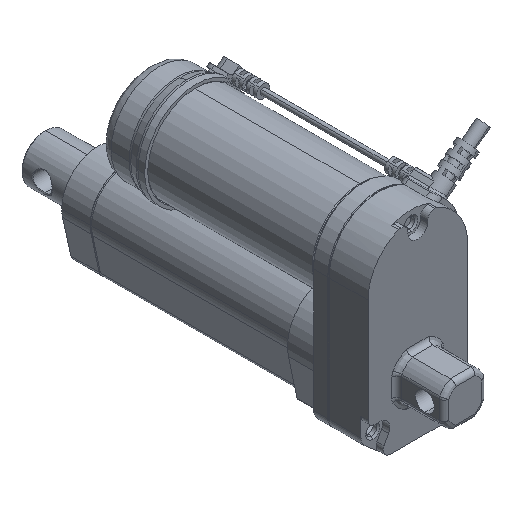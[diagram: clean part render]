
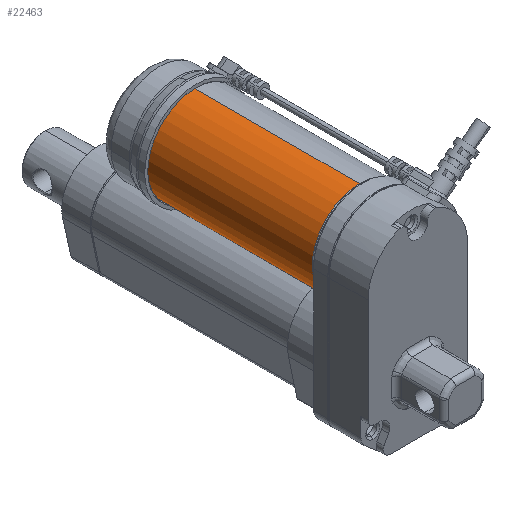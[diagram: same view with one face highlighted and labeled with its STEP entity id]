
A CAD part, isometric view. The second image highlights one B-rep face of the part: STEP entity #22463.
In plain terms, the highlighted cylindrical face has radius 20 mm (diameter 40 mm), a partial arc.
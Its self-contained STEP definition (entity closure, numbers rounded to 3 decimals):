
#8 = CYLINDRICAL_SURFACE ( 'NONE', #11767, 20. ) ;
#290 = VERTEX_POINT ( 'NONE', #5570 ) ;
#352 = EDGE_CURVE ( 'NONE', #15327, #9691, #16974, .T. ) ;
#514 = AXIS2_PLACEMENT_3D ( 'NONE', #9125, #20511, #5211 ) ;
#986 = DIRECTION ( 'NONE',  ( 0., 1., 0. ) ) ;
#1127 = DIRECTION ( 'NONE',  ( 0., 1., 0. ) ) ;
#1349 = CARTESIAN_POINT ( 'NONE',  ( 0., -81., -2.5 ) ) ;
#1591 = CIRCLE ( 'NONE', #13333, 20. ) ;
#2574 = CARTESIAN_POINT ( 'NONE',  ( 0., -81., 37.5 ) ) ;
#3484 = ORIENTED_EDGE ( 'NONE', *, *, #22330, .T. ) ;
#4116 = EDGE_LOOP ( 'NONE', ( #15921, #3484, #5760, #23046 ) ) ;
#5211 = DIRECTION ( 'NONE',  ( 0., 0., 1. ) ) ;
#5570 = CARTESIAN_POINT ( 'NONE',  ( 0., -78.1, -2.5 ) ) ;
#5643 = DIRECTION ( 'NONE',  ( 0., 0., 1. ) ) ;
#5760 = ORIENTED_EDGE ( 'NONE', *, *, #18824, .T. ) ;
#6223 = VECTOR ( 'NONE', #23770, 1000. ) ;
#8946 = LINE ( 'NONE', #1349, #6223 ) ;
#9125 = CARTESIAN_POINT ( 'NONE',  ( 0., -8.5, 17.5 ) ) ;
#9691 = VERTEX_POINT ( 'NONE', #10494 ) ;
#10045 = LINE ( 'NONE', #2574, #19077 ) ;
#10494 = CARTESIAN_POINT ( 'NONE',  ( 0., -8.5, -2.5 ) ) ;
#11145 = CARTESIAN_POINT ( 'NONE',  ( 0., -8.5, 37.5 ) ) ;
#11767 = AXIS2_PLACEMENT_3D ( 'NONE', #16688, #14971, #5643 ) ;
#13333 = AXIS2_PLACEMENT_3D ( 'NONE', #23551, #1127, #23297 ) ;
#14181 = CARTESIAN_POINT ( 'NONE',  ( 0., -78.1, 37.5 ) ) ;
#14971 = DIRECTION ( 'NONE',  ( 0., 1., 0. ) ) ;
#15327 = VERTEX_POINT ( 'NONE', #11145 ) ;
#15921 = ORIENTED_EDGE ( 'NONE', *, *, #19018, .F. ) ;
#16688 = CARTESIAN_POINT ( 'NONE',  ( 0., -81., 17.5 ) ) ;
#16974 = CIRCLE ( 'NONE', #514, 20. ) ;
#17179 = VERTEX_POINT ( 'NONE', #14181 ) ;
#18824 = EDGE_CURVE ( 'NONE', #17179, #15327, #10045, .T. ) ;
#19018 = EDGE_CURVE ( 'NONE', #290, #9691, #8946, .T. ) ;
#19077 = VECTOR ( 'NONE', #986, 1000. ) ;
#20103 = FACE_OUTER_BOUND ( 'NONE', #4116, .T. ) ;
#20511 = DIRECTION ( 'NONE',  ( 0., -1., 0. ) ) ;
#22330 = EDGE_CURVE ( 'NONE', #290, #17179, #1591, .T. ) ;
#22463 = ADVANCED_FACE ( 'NONE', ( #20103 ), #8, .T. ) ;
#23046 = ORIENTED_EDGE ( 'NONE', *, *, #352, .T. ) ;
#23297 = DIRECTION ( 'NONE',  ( 0., 0., 1. ) ) ;
#23551 = CARTESIAN_POINT ( 'NONE',  ( 0., -78.1, 17.5 ) ) ;
#23770 = DIRECTION ( 'NONE',  ( 0., 1., 0. ) ) ;
